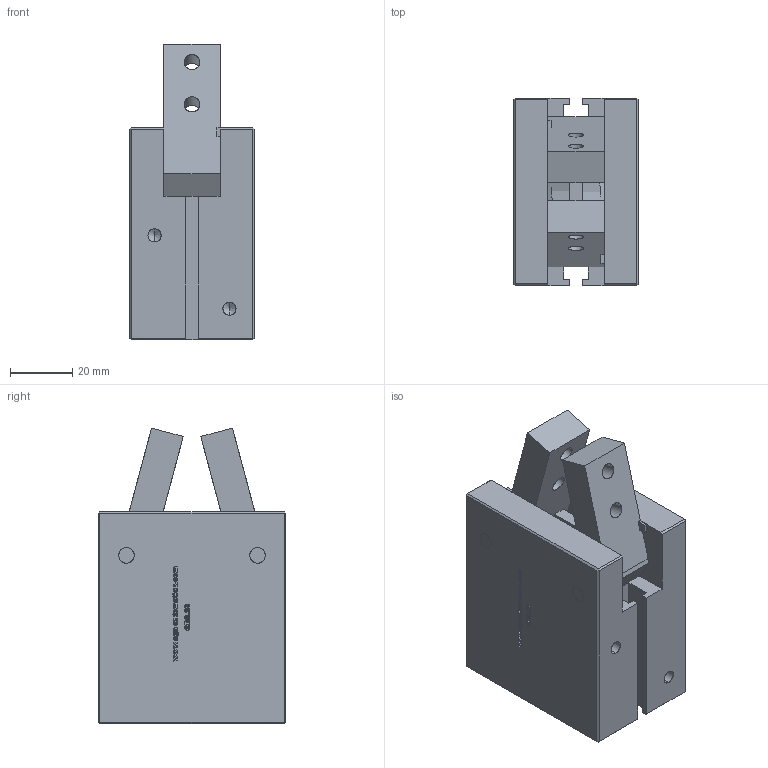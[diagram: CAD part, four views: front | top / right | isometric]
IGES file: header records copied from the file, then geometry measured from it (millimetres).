
Start section: SolidWorks IGES file using analytic representation for surfaces
Global section: file name: C:\Documents and Settings\SGA\Bureau\GDS.32\GDS.32-CLOSE.IGS; native system: SolidWorks 2010; preprocessor: SolidWorks 2010; author: SGA; date: 111020.135236; units: millimetre
Bounding box: 40 x 60 x 94.81 mm (x, y, z)
Surface area: 38605.4 mm2 (no closed solid volume)
Topology: 0 solids, 0 shells, 596 faces, 6671 edges, 6655 vertices
Faces by surface type: bspline 532, revolution 64
